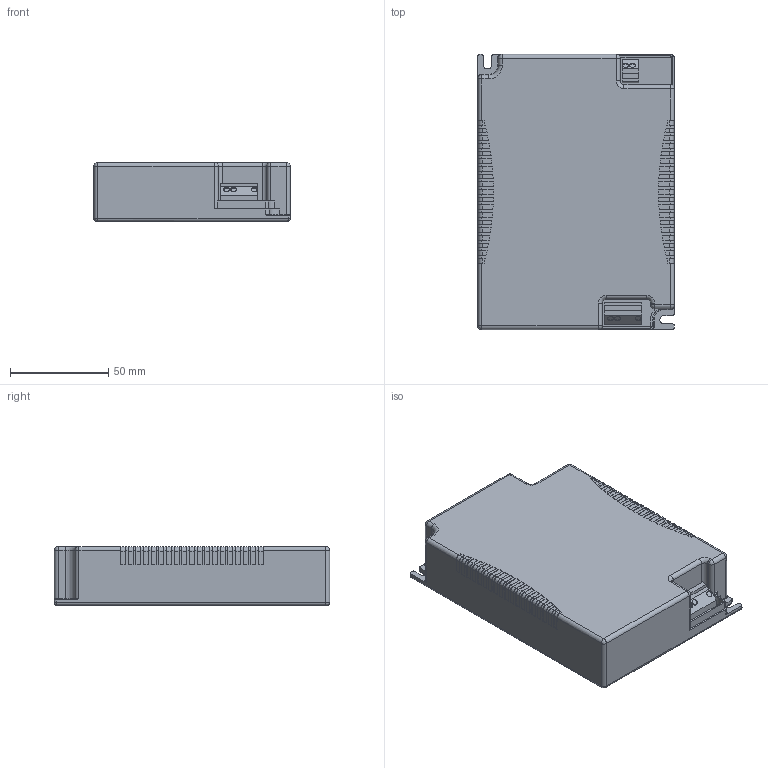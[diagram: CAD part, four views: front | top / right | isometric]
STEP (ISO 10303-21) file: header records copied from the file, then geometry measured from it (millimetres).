
FILE_DESCRIPTION((''),'2;1');
FILE_NAME('15008198Z_ZC7_TEC','2014-04-29T',('Juergen.Hrach'),(''),'PRO/ENGINEER BY PARAMETRIC TECHNOLOGY CORPORATION, 2013410','PRO/ENGINEER BY PARAMETRIC TECHNOLOGY CORPORATION, 2013410','');
FILE_SCHEMA(('AUTOMOTIVE_DESIGN { 1 0 10303 214 1 1 1 1 }'));
Length unit declared in the file: millimetre
Products named in the file (1): 15008198Z_ZC7_TEC
Bounding box: 100 x 140 x 30 mm (x, y, z)
Volume: 397163.7 mm3; surface area: 43710.9 mm2
Topology: 1 solids, 1 shells, 465 faces, 1304 edges, 848 vertices
Faces by surface type: plane 256, cylinder 179, torus 14, bspline 8, sphere 8
Entity records: 19794 total; most frequent: CARTESIAN_POINT 2944, ORIENTED_EDGE 2608, DIRECTION 2581, PRESENTATION_STYLE_ASSIGNMENT 1327, STYLED_ITEM 1305, CURVE_STYLE 1304, EDGE_CURVE 1304, VECTOR 913
